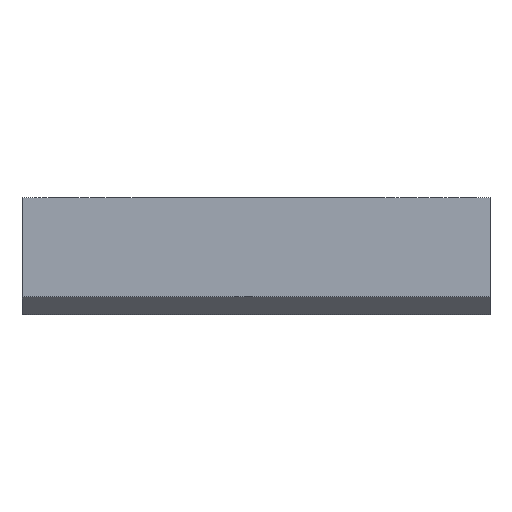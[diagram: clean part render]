
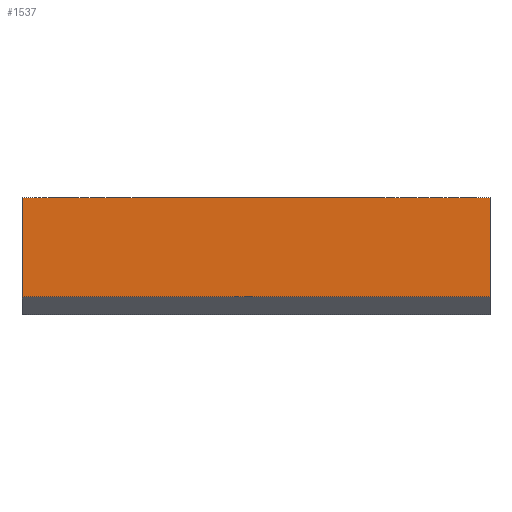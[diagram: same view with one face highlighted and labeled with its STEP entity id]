
A CAD part, front view. The second image highlights one B-rep face of the part: STEP entity #1537.
In plain terms, the highlighted planar face has unit normal (0, -1, 0).
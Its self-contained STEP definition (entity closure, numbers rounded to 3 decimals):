
#90 = VERTEX_POINT ( 'NONE', #4524 ) ;
#144 = DIRECTION ( 'NONE',  ( 0., -1., 0. ) ) ;
#157 = CARTESIAN_POINT ( 'NONE',  ( 40., 0., 20. ) ) ;
#389 = VECTOR ( 'NONE', #2715, 1000. ) ;
#478 = LINE ( 'NONE', #522, #595 ) ;
#522 = CARTESIAN_POINT ( 'NONE',  ( 80., 0., 11.5 ) ) ;
#595 = VECTOR ( 'NONE', #3336, 1000. ) ;
#601 = LINE ( 'NONE', #157, #4321 ) ;
#789 = EDGE_CURVE ( 'NONE', #3036, #2977, #2347, .T. ) ;
#902 = VECTOR ( 'NONE', #1945, 1000. ) ;
#1122 = ORIENTED_EDGE ( 'NONE', *, *, #4154, .F. ) ;
#1251 = CARTESIAN_POINT ( 'NONE',  ( 80., 0., 20. ) ) ;
#1460 = ORIENTED_EDGE ( 'NONE', *, *, #2125, .T. ) ;
#1537 = ADVANCED_FACE ( 'NONE', ( #2003 ), #3987, .T. ) ;
#1565 = EDGE_CURVE ( 'NONE', #90, #2790, #601, .T. ) ;
#1602 = CARTESIAN_POINT ( 'NONE',  ( 0., 0., 11.5 ) ) ;
#1605 = ORIENTED_EDGE ( 'NONE', *, *, #789, .T. ) ;
#1945 = DIRECTION ( 'NONE',  ( 0., 0., 1. ) ) ;
#2003 = FACE_OUTER_BOUND ( 'NONE', #3306, .T. ) ;
#2105 = CARTESIAN_POINT ( 'NONE',  ( 80., 0., 3. ) ) ;
#2125 = EDGE_CURVE ( 'NONE', #2977, #2790, #478, .T. ) ;
#2231 = CARTESIAN_POINT ( 'NONE',  ( 0., 0., 0. ) ) ;
#2249 = DIRECTION ( 'NONE',  ( 1., 0., 0. ) ) ;
#2313 = AXIS2_PLACEMENT_3D ( 'NONE', #2231, #144, #2591 ) ;
#2347 = LINE ( 'NONE', #2470, #389 ) ;
#2470 = CARTESIAN_POINT ( 'NONE',  ( 40., 0., 3. ) ) ;
#2591 = DIRECTION ( 'NONE',  ( 0., 0., -1. ) ) ;
#2636 = LINE ( 'NONE', #1602, #902 ) ;
#2715 = DIRECTION ( 'NONE',  ( 1., 0., 0. ) ) ;
#2790 = VERTEX_POINT ( 'NONE', #1251 ) ;
#2843 = ORIENTED_EDGE ( 'NONE', *, *, #1565, .F. ) ;
#2977 = VERTEX_POINT ( 'NONE', #2105 ) ;
#3036 = VERTEX_POINT ( 'NONE', #3891 ) ;
#3306 = EDGE_LOOP ( 'NONE', ( #1460, #2843, #1122, #1605 ) ) ;
#3336 = DIRECTION ( 'NONE',  ( 0., 0., 1. ) ) ;
#3891 = CARTESIAN_POINT ( 'NONE',  ( 0., 0., 3. ) ) ;
#3987 = PLANE ( 'NONE',  #2313 ) ;
#4154 = EDGE_CURVE ( 'NONE', #3036, #90, #2636, .T. ) ;
#4321 = VECTOR ( 'NONE', #2249, 1000. ) ;
#4524 = CARTESIAN_POINT ( 'NONE',  ( 0., 0., 20. ) ) ;
